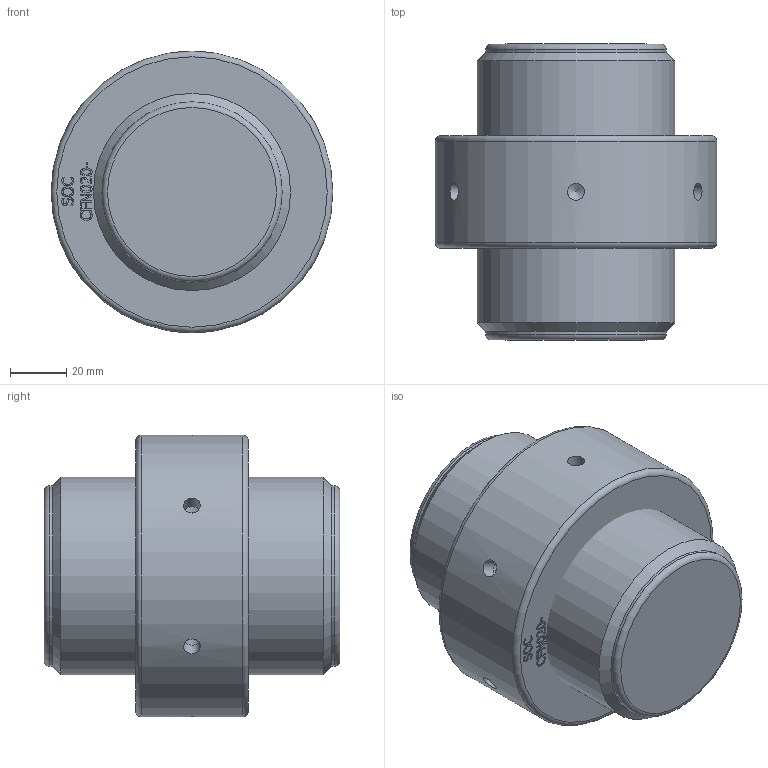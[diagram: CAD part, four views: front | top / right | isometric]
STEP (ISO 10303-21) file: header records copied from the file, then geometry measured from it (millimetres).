
FILE_DESCRIPTION(/* description */ (''),/* implementation_level */ '2;1');
FILE_NAME(/* name */ 'F:\Clienti LS\Redaelli\CYT\CYT\ARRNGEMENT\CYT020 61 061 0.stp',/* time_stamp */ '2021-05-09T08:40:56+02:00',/* author */ ('ranca'),/* organization */ (''),/* preprocessor_version */ 'ST-DEVELOPER v16.13',/* originating_system */ 'Autodesk Inventor 2018',/* authorisation */ '');
FILE_SCHEMA (('AUTOMOTIVE_DESIGN { 1 0 10303 214 3 1 1 }'));
Length unit declared in the file: millimetre
Products named in the file (3): CYT012-61-061-0; CYT012-61-061-0_1; CYT012-61-061-0_DADO
Assembly tree (2 placements, depth 2):
  CYT012-61-061-0
    CYT012-61-061-0_1
    CYT012-61-061-0_DADO
Bounding box: 100 x 105 x 100 mm (x, y, z)
Volume: 575057 mm3; surface area: 59458.3 mm2
Topology: 2 solids, 2 shells, 332 faces, 905 edges, 603 vertices
Faces by surface type: bspline 194, plane 115, cylinder 11, cone 8, torus 4
Full cylindrical faces by diameter (mm): 6 x6, 64 x2, 65.67 x1, 70 x1, 100 x1
Entity records: 11506 total; most frequent: CARTESIAN_POINT 4528, ORIENTED_EDGE 1738, EDGE_CURVE 869, DIRECTION 775, VERTEX_POINT 590, LINE 449, VECTOR 449, B_SPLINE_CURVE_WITH_KNOTS 400
